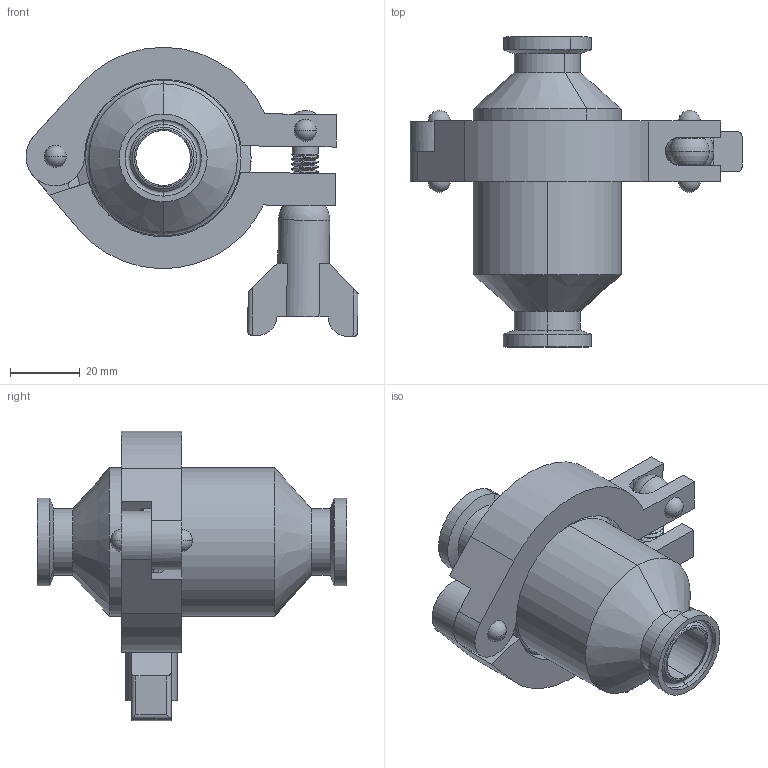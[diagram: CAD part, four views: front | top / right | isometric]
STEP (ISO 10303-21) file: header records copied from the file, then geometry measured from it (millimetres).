
FILE_DESCRIPTION (( 'STEP AP203' ), '1' );
FILE_NAME ('45C-6.75.STEP', '2019-11-14T20:41:48', ( 'vneprd' ), ( 'Microsoft' ), 'SwSTEP 2.0', 'SolidWorks 2018', '' );
FILE_SCHEMA (( 'CONFIG_CONTROL_DESIGN' ));
Length unit declared in the file: inch
Products named in the file (1): 45C-6.75
Bounding box: 95.22 x 88.9 x 83.02 mm (x, y, z)
Volume: 71901.8 mm3; surface area: 45697.4 mm2
Topology: 9 solids, 9 shells, 266 faces, 645 edges, 405 vertices
Faces by surface type: cylinder 130, plane 58, cone 35, torus 26, sphere 14, bspline 3
Entity records: 12157 total; most frequent: CARTESIAN_POINT 6027, DIRECTION 1291, ORIENTED_EDGE 1282, EDGE_CURVE 641, AXIS2_PLACEMENT_3D 519, VERTEX_POINT 403, EDGE_LOOP 294, ADVANCED_FACE 266
